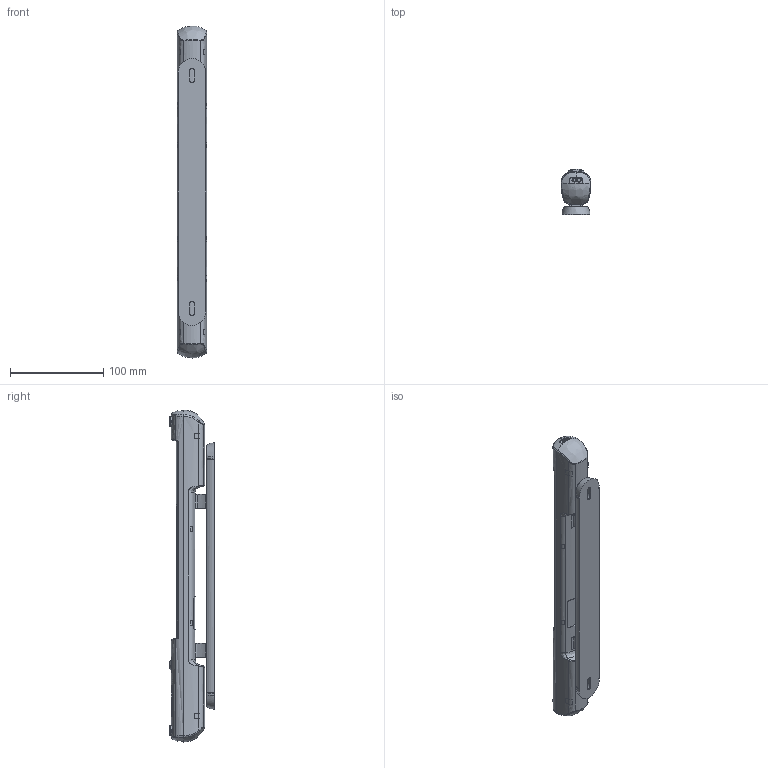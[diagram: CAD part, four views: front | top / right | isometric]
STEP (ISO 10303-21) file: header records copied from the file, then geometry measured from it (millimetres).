
FILE_DESCRIPTION(/* description */ (''),/* implementation_level */ '2;1');
FILE_NAME(/* name */ 'fll-xxx565u-irm (x clienti)',/* time_stamp */ '2016-03-01T14:40:01+01:00',/* author */ (''),/* organization */ (''),/* preprocessor_version */ 'ST-DEVELOPER v10',/* originating_system */ '',/* authorisation */ '');
FILE_SCHEMA (('CONFIG_CONTROL_DESIGN'));
Length unit declared in the file: millimetre
Products named in the file (1): 1
Bounding box: 32 x 48.11 x 356 mm (x, y, z)
Volume: 63511.4 mm3; surface area: 60748 mm2
Topology: 1 solids, 2 shells, 671 faces, 1819 edges, 1172 vertices
Faces by surface type: bspline 481, plane 190
Entity records: 38150 total; most frequent: CARTESIAN_POINT 27408, ORIENTED_EDGE 3592, EDGE_CURVE 1805, B_SPLINE_CURVE_WITH_KNOTS 1247, VERTEX_POINT 1172, EDGE_LOOP 715, ADVANCED_FACE 671, FACE_OUTER_BOUND 671
